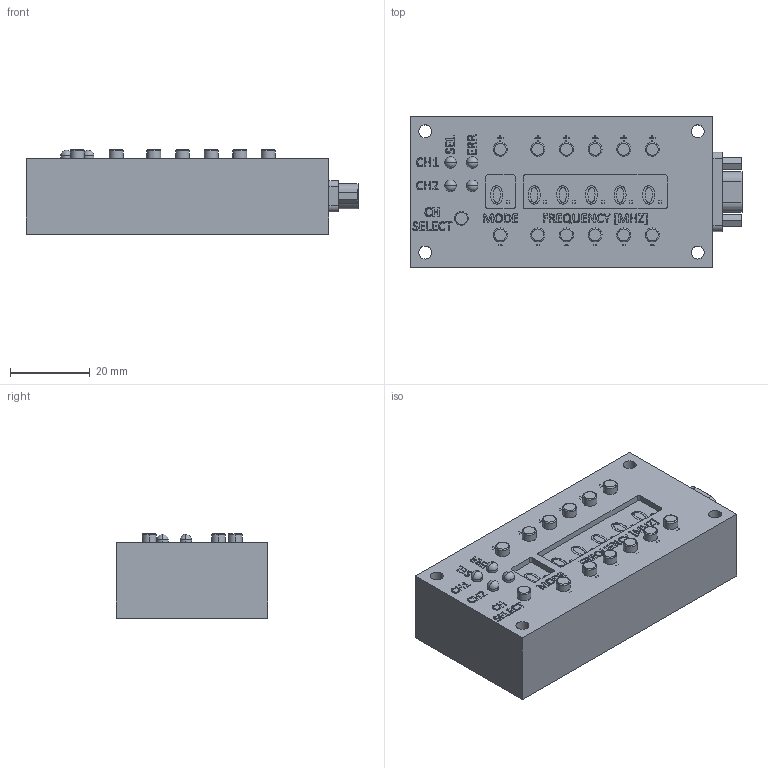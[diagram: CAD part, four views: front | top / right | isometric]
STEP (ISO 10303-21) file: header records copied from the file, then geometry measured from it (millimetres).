
FILE_DESCRIPTION (( 'STEP AP214' ), '1' );
FILE_NAME ('QS-ACCO55.STEP', '2024-11-25T21:53:34', ( '' ), ( '' ), 'SwSTEP 2.0', 'SolidWorks 2023', '' );
FILE_SCHEMA (( 'AUTOMOTIVE_DESIGN' ));
Length unit declared in the file: inch
Products named in the file (1): QS-ACCO55
Bounding box: 83.52 x 38.1 x 21.21 mm (x, y, z)
Volume: 55186.3 mm3; surface area: 12897.5 mm2
Topology: 4 solids, 4 shells, 1274 faces, 3316 edges, 2184 vertices
Faces by surface type: bspline 552, plane 525, cylinder 146, torus 38, cone 13
Entity records: 63534 total; most frequent: CARTESIAN_POINT 35703, ORIENTED_EDGE 6616, DIRECTION 4020, EDGE_CURVE 3308, VERTEX_POINT 2184, VECTOR 1834, LINE 1834, EDGE_LOOP 1428
